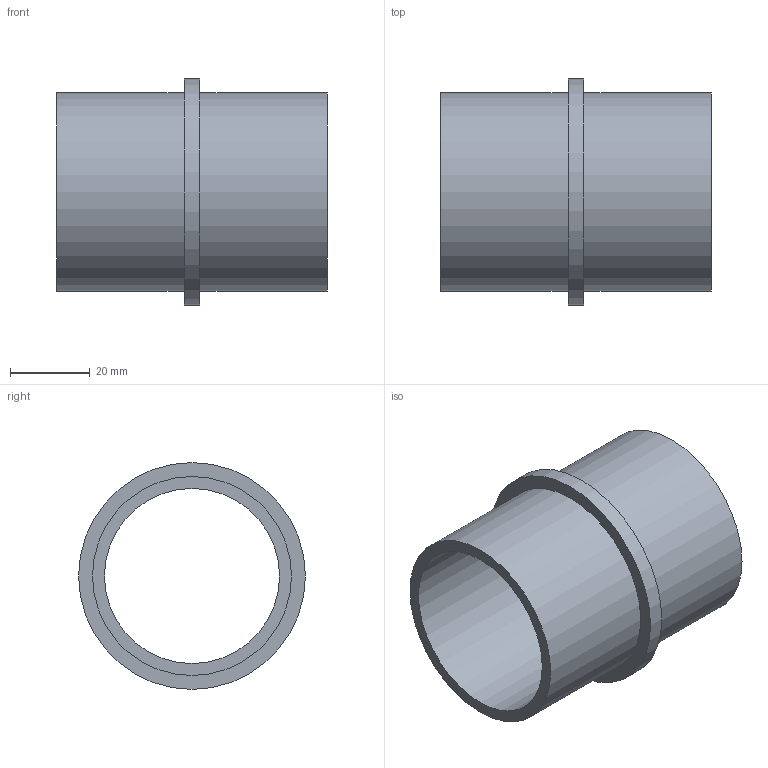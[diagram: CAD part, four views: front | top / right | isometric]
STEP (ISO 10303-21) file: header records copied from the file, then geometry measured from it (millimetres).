
FILE_DESCRIPTION(/* description */ (''),/* implementation_level */ '2;1');
FILE_NAME(/* name */ 'Z:\Geberit\Export\NewStep\Bundbüchse_Einzelteil\stp\361772.stp',/* time_stamp */ '2014-04-03T12:06:28+02:00',/* author */ ('nelson'),/* organization */ (''),/* preprocessor_version */ 'ST-DEVELOPER v15.2',/* originating_system */ 'Autodesk Inventor 2014',/* authorisation */ '');
FILE_SCHEMA (('AUTOMOTIVE_DESIGN { 1 0 10303 214 3 1 1 }'));
Length unit declared in the file: millimetre
Products named in the file (1): 361772
Bounding box: 68 x 57 x 57 mm (x, y, z)
Volume: 32474.6 mm3; surface area: 22231.5 mm2
Topology: 1 solids, 1 shells, 8 faces, 12 edges, 8 vertices
Faces by surface type: cylinder 4, plane 4
Full cylindrical faces by diameter (mm): 44 x1, 50 x2, 57 x1
Entity records: 190 total; most frequent: DIRECTION 34, CARTESIAN_POINT 25, AXIS2_PLACEMENT_3D 17, EDGE_LOOP 16, ORIENTED_EDGE 16, FACE_BOUND 10, CIRCLE 8, VERTEX_POINT 8
